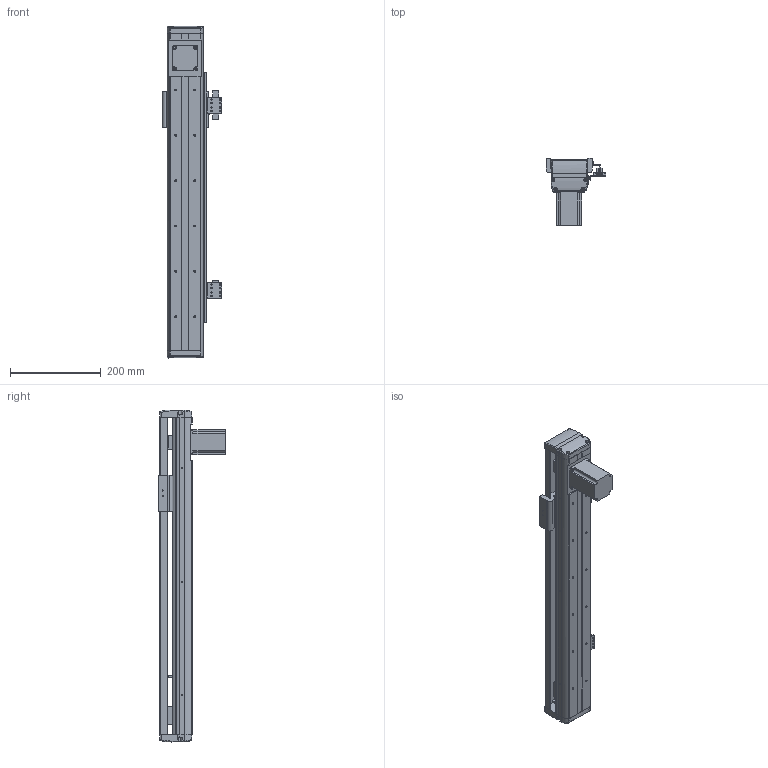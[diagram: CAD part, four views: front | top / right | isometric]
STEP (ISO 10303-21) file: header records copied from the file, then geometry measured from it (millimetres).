
FILE_DESCRIPTION (( 'STEP AP203' ), '1' );
FILE_NAME ('EXT80T-S400-2B.STEP', '2016-01-13T08:39:10', ( 'QQ' ), ( '' ), 'SwSTEP 2.0', 'SolidWorks 2013', '' );
FILE_SCHEMA (( 'CONFIG_CONTROL_DESIGN' ));
Length unit declared in the file: millimetre
Products named in the file (3): EXT80T-S400-2B; EXT80T-S100-2B
Assembly tree (3 placements, depth 2):
  EXT80T-S400-2B
    EXT80T-S400-2B
    EXT80T-S100-2B  x2
Bounding box: 132 x 148 x 732.16 mm (x, y, z)
Surface area: 424151.5 mm2 (no closed solid volume)
Topology: 0 solids, 25 shells, 578 faces, 2078 edges, 1496 vertices
Faces by surface type: cylinder 303, plane 243, bspline 32
Entity records: 30101 total; most frequent: CARTESIAN_POINT 14078, ORIENTED_EDGE 3089, DIRECTION 2982, EDGE_CURVE 1895, VERTEX_POINT 1377, VECTOR 1060, LINE 1060, AXIS2_PLACEMENT_3D 961
